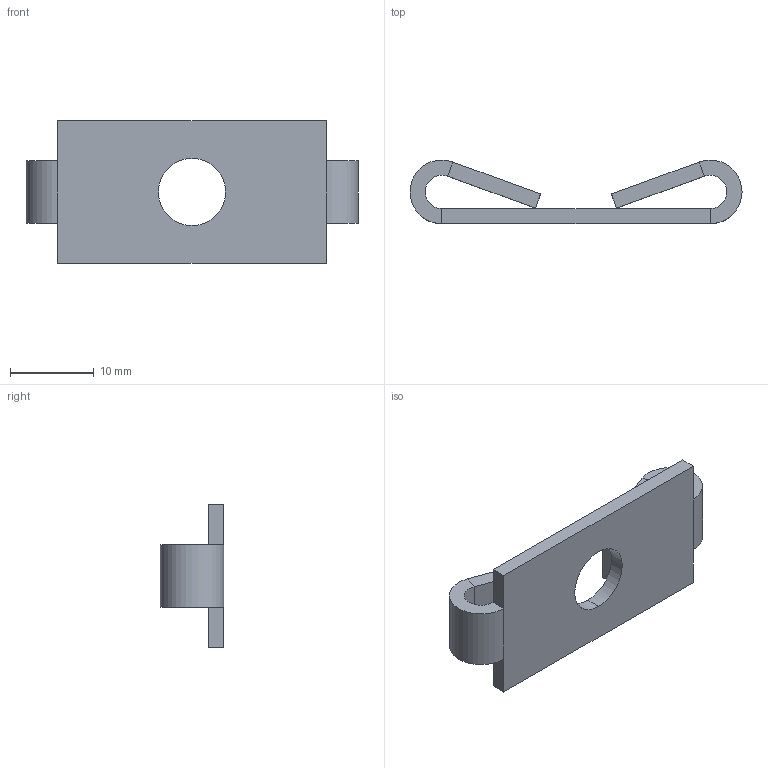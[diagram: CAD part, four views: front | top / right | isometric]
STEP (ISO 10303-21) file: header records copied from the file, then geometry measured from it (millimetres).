
FILE_DESCRIPTION (( 'STEP AP203' ), '1' );
FILE_NAME ('SJT8-4040.STEP', '2018-03-15T12:42:25', ( '' ), ( '' ), 'SwSTEP 2.0', 'SolidWorks 2013', '' );
FILE_SCHEMA (( 'CONFIG_CONTROL_DESIGN' ));
Length unit declared in the file: millimetre
Products named in the file (1): SJT8-4040
Bounding box: 39.6 x 7.6 x 17 mm (x, y, z)
Volume: 1455.2 mm3; surface area: 1991.7 mm2
Topology: 1 solids, 1 shells, 28 faces, 62 edges, 36 vertices
Faces by surface type: plane 22, cylinder 6
Entity records: 831 total; most frequent: DIRECTION 132, CARTESIAN_POINT 127, ORIENTED_EDGE 124, EDGE_CURVE 62, LINE 50, VECTOR 50, AXIS2_PLACEMENT_3D 41, VERTEX_POINT 36
